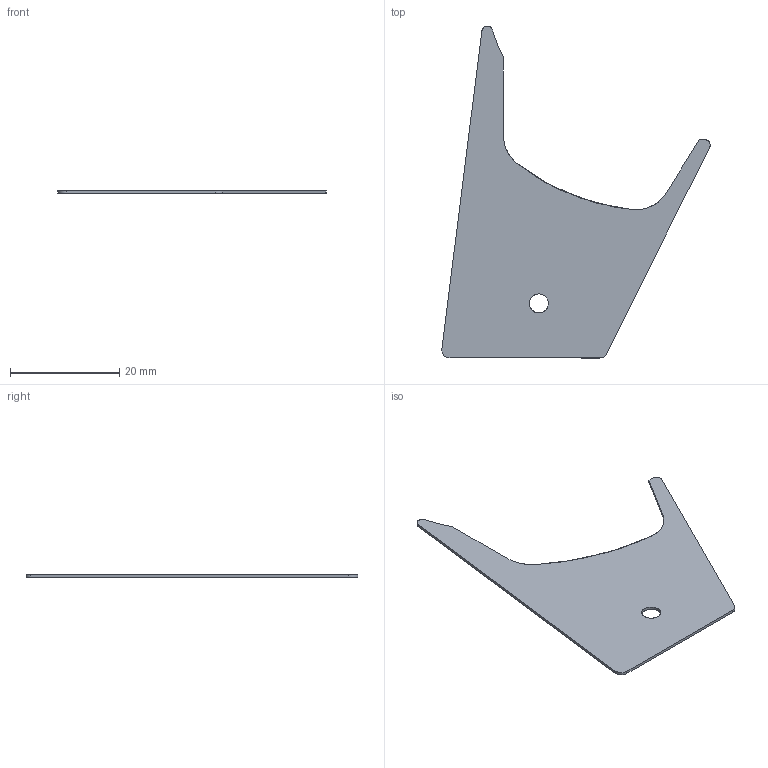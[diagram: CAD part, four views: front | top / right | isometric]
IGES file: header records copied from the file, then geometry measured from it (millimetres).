
Start section: SolidWorks IGES file using analytic representation for surfaces
Global section: file name: C:\Users\holy\Desktop\KRC5FH\GRIP-DATA\GRIP-1\GRIP-1-IGES\GRIP-1-Spacer.igs; native system: Rhinoceros ( Aug 10 2015 ); preprocessor: Trout Lake IGES 012 Aug 10 2015; date: 151029.080442; units: millimetre
Bounding box: 49.18 x 60.85 x 0.5 mm (x, y, z)
Surface area: 2651.4 mm2 (no closed solid volume)
Topology: 0 solids, 0 shells, 15 faces, 89 edges, 88 vertices
Faces by surface type: bspline 15
